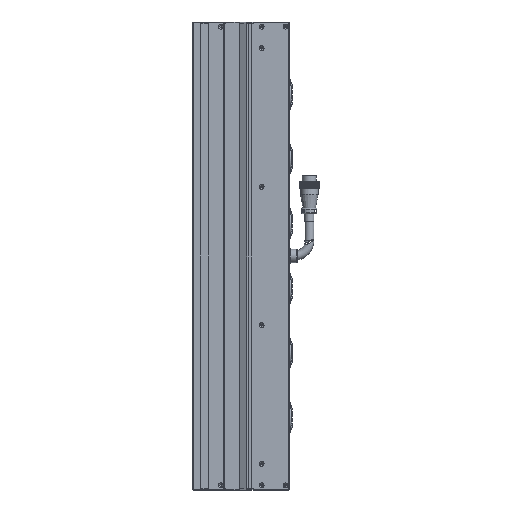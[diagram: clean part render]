
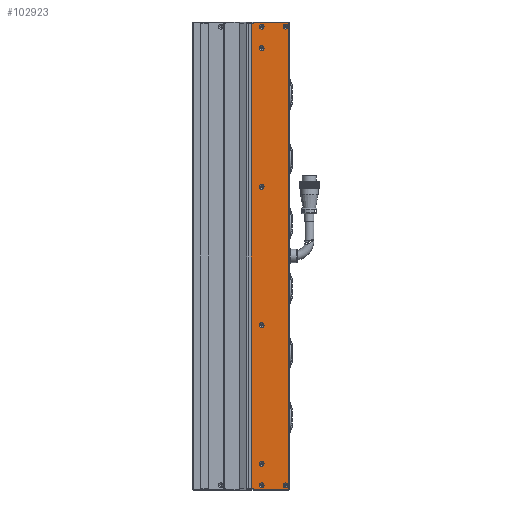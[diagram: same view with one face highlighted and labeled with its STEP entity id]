
A CAD part, left-side view. The second image highlights one B-rep face of the part: STEP entity #102923.
In plain terms, the highlighted planar face has unit normal (-1, 0, 0).
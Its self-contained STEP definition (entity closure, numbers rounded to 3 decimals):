
#40 = CARTESIAN_POINT ( 'NONE',  ( -24.998, -36.5, 270. ) ) ;
#668 = EDGE_CURVE ( 'NONE', #48998, #48998, #37294, .T. ) ;
#1391 = DIRECTION ( 'NONE',  ( -1., 0., 0. ) ) ;
#2941 = CARTESIAN_POINT ( 'NONE',  ( -24.998, -36.5, 298. ) ) ;
#2971 = ORIENTED_EDGE ( 'NONE', *, *, #94007, .T. ) ;
#3266 = CARTESIAN_POINT ( 'NONE',  ( -24.998, -26.5, -302. ) ) ;
#6073 = CARTESIAN_POINT ( 'NONE',  ( -24.998, -36.5, 90. ) ) ;
#6379 = CARTESIAN_POINT ( 'NONE',  ( -24.998, -23.25, 302. ) ) ;
#7041 = EDGE_LOOP ( 'NONE', ( #34612 ) ) ;
#7495 = VECTOR ( 'NONE', #32236, 1000. ) ;
#9126 = VERTEX_POINT ( 'NONE', #111369 ) ;
#9403 = EDGE_CURVE ( 'NONE', #81302, #81302, #109553, .T. ) ;
#10733 = AXIS2_PLACEMENT_3D ( 'NONE', #20543, #12240, #20169 ) ;
#11519 = VERTEX_POINT ( 'NONE', #96459 ) ;
#12240 = DIRECTION ( 'NONE',  ( -1., 0., 0. ) ) ;
#12320 = EDGE_CURVE ( 'NONE', #83082, #65251, #109219, .T. ) ;
#13357 = FACE_BOUND ( 'NONE', #38135, .T. ) ;
#14027 = EDGE_CURVE ( 'NONE', #77014, #77014, #83704, .T. ) ;
#15549 = VERTEX_POINT ( 'NONE', #3266 ) ;
#16297 = CARTESIAN_POINT ( 'NONE',  ( -24.998, -36.5, -86.85 ) ) ;
#17897 = VERTEX_POINT ( 'NONE', #34782 ) ;
#18152 = VECTOR ( 'NONE', #33426, 1000. ) ;
#19984 = ORIENTED_EDGE ( 'NONE', *, *, #48069, .T. ) ;
#20056 = ORIENTED_EDGE ( 'NONE', *, *, #107667, .F. ) ;
#20169 = DIRECTION ( 'NONE',  ( 0., 0., 1. ) ) ;
#20401 = FACE_BOUND ( 'NONE', #51174, .T. ) ;
#20543 = CARTESIAN_POINT ( 'NONE',  ( -24.998, -36.5, -270. ) ) ;
#20667 = AXIS2_PLACEMENT_3D ( 'NONE', #29990, #92960, #48168 ) ;
#20750 = DIRECTION ( 'NONE',  ( 1., 0., 0. ) ) ;
#23178 = FACE_OUTER_BOUND ( 'NONE', #54827, .T. ) ;
#23215 = VERTEX_POINT ( 'NONE', #107895 ) ;
#23602 = CARTESIAN_POINT ( 'NONE',  ( -24.998, -36.5, -294.85 ) ) ;
#23777 = ORIENTED_EDGE ( 'NONE', *, *, #42637, .F. ) ;
#26402 = DIRECTION ( 'NONE',  ( -1., 0., 0. ) ) ;
#27606 = DIRECTION ( 'NONE',  ( -1., 0., 0. ) ) ;
#28725 = EDGE_CURVE ( 'NONE', #88949, #11519, #107090, .T. ) ;
#29351 = DIRECTION ( 'NONE',  ( 0., 1., 0. ) ) ;
#29848 = CIRCLE ( 'NONE', #67530, 3.15 ) ;
#29990 = CARTESIAN_POINT ( 'NONE',  ( -24.998, -67.5, 298. ) ) ;
#32236 = DIRECTION ( 'NONE',  ( 0., 1., 0. ) ) ;
#33211 = DIRECTION ( 'NONE',  ( -1., 0., 0. ) ) ;
#33426 = DIRECTION ( 'NONE',  ( 0., 0., 1. ) ) ;
#33882 = DIRECTION ( 'NONE',  ( 0., 0., 1. ) ) ;
#33890 = DIRECTION ( 'NONE',  ( 0., 0., -1. ) ) ;
#33918 = DIRECTION ( 'NONE',  ( 0., 0., 1. ) ) ;
#34612 = ORIENTED_EDGE ( 'NONE', *, *, #62920, .F. ) ;
#34782 = CARTESIAN_POINT ( 'NONE',  ( -24.998, -72., -303.5 ) ) ;
#35106 = CARTESIAN_POINT ( 'NONE',  ( -24.998, -36.5, 301.15 ) ) ;
#37294 = CIRCLE ( 'NONE', #61682, 3.15 ) ;
#38021 = CIRCLE ( 'NONE', #116586, 3.15 ) ;
#38135 = EDGE_LOOP ( 'NONE', ( #48461 ) ) ;
#38445 = LINE ( 'NONE', #68106, #7495 ) ;
#38819 = PLANE ( 'NONE',  #75484 ) ;
#40114 = EDGE_LOOP ( 'NONE', ( #20056 ) ) ;
#40482 = EDGE_CURVE ( 'NONE', #17897, #74147, #38445, .T. ) ;
#41688 = CARTESIAN_POINT ( 'NONE',  ( -24.998, -72., 303.5 ) ) ;
#42637 = EDGE_CURVE ( 'NONE', #44454, #44454, #77658, .T. ) ;
#43042 = CARTESIAN_POINT ( 'NONE',  ( -24.998, -36.5, 273.15 ) ) ;
#43499 = ORIENTED_EDGE ( 'NONE', *, *, #668, .F. ) ;
#44454 = VERTEX_POINT ( 'NONE', #35106 ) ;
#45033 = DIRECTION ( 'NONE',  ( -1., 0., 0. ) ) ;
#45787 = FACE_BOUND ( 'NONE', #101863, .T. ) ;
#45947 = AXIS2_PLACEMENT_3D ( 'NONE', #74473, #112912, #58668 ) ;
#46831 = EDGE_CURVE ( 'NONE', #97946, #97946, #38021, .T. ) ;
#47184 = FACE_BOUND ( 'NONE', #50738, .T. ) ;
#48069 = EDGE_CURVE ( 'NONE', #17897, #83082, #49214, .T. ) ;
#48168 = DIRECTION ( 'NONE',  ( 0., 0., 1. ) ) ;
#48337 = ORIENTED_EDGE ( 'NONE', *, *, #46831, .F. ) ;
#48461 = ORIENTED_EDGE ( 'NONE', *, *, #14027, .F. ) ;
#48998 = VERTEX_POINT ( 'NONE', #43042 ) ;
#49214 = LINE ( 'NONE', #94161, #116689 ) ;
#50738 = EDGE_LOOP ( 'NONE', ( #66830 ) ) ;
#50869 = DIRECTION ( 'NONE',  ( 0., -1., 0. ) ) ;
#51004 = LINE ( 'NONE', #61088, #94661 ) ;
#51174 = EDGE_LOOP ( 'NONE', ( #23777 ) ) ;
#52548 = DIRECTION ( 'NONE',  ( 0., 0., 1. ) ) ;
#52931 = CARTESIAN_POINT ( 'NONE',  ( -24.998, -36.5, -298. ) ) ;
#54081 = ORIENTED_EDGE ( 'NONE', *, *, #40482, .F. ) ;
#54315 = ORIENTED_EDGE ( 'NONE', *, *, #78806, .F. ) ;
#54827 = EDGE_LOOP ( 'NONE', ( #86609, #54315, #54081, #19984, #80060, #2971, #97197, #106652 ) ) ;
#56164 = CARTESIAN_POINT ( 'NONE',  ( -24.998, -72.5, 302. ) ) ;
#56838 = AXIS2_PLACEMENT_3D ( 'NONE', #2941, #1391, #64414 ) ;
#58668 = DIRECTION ( 'NONE',  ( 0., 0., 1. ) ) ;
#59537 = DIRECTION ( 'NONE',  ( 0., 0., 1. ) ) ;
#61088 = CARTESIAN_POINT ( 'NONE',  ( -24.998, -26.5, 295. ) ) ;
#61682 = AXIS2_PLACEMENT_3D ( 'NONE', #40, #27606, #62664 ) ;
#62664 = DIRECTION ( 'NONE',  ( 0., 0., 1. ) ) ;
#62920 = EDGE_CURVE ( 'NONE', #23215, #23215, #81244, .T. ) ;
#64414 = DIRECTION ( 'NONE',  ( 0., 0., 1. ) ) ;
#65251 = VERTEX_POINT ( 'NONE', #112012 ) ;
#66004 = ORIENTED_EDGE ( 'NONE', *, *, #75630, .F. ) ;
#66048 = LINE ( 'NONE', #113689, #18152 ) ;
#66830 = ORIENTED_EDGE ( 'NONE', *, *, #9403, .F. ) ;
#67530 = AXIS2_PLACEMENT_3D ( 'NONE', #52931, #45033, #52548 ) ;
#68106 = CARTESIAN_POINT ( 'NONE',  ( -24.998, -72.5, -303.5 ) ) ;
#68218 = CARTESIAN_POINT ( 'NONE',  ( -24.998, -26.5, -295. ) ) ;
#69429 = VERTEX_POINT ( 'NONE', #23602 ) ;
#70986 = CARTESIAN_POINT ( 'NONE',  ( -24.998, -67.5, -294.85 ) ) ;
#74147 = VERTEX_POINT ( 'NONE', #94624 ) ;
#74473 = CARTESIAN_POINT ( 'NONE',  ( -24.998, -36.5, -90. ) ) ;
#75436 = FACE_BOUND ( 'NONE', #7041, .T. ) ;
#75484 = AXIS2_PLACEMENT_3D ( 'NONE', #56164, #20750, #82574 ) ;
#75630 = EDGE_CURVE ( 'NONE', #9126, #9126, #103571, .T. ) ;
#76263 = VECTOR ( 'NONE', #77253, 1000. ) ;
#76503 = CARTESIAN_POINT ( 'NONE',  ( -24.998, -72.5, 302. ) ) ;
#77014 = VERTEX_POINT ( 'NONE', #80453 ) ;
#77253 = DIRECTION ( 'NONE',  ( 0., -1., 0. ) ) ;
#77658 = CIRCLE ( 'NONE', #56838, 3.15 ) ;
#77735 = EDGE_LOOP ( 'NONE', ( #48337 ) ) ;
#78058 = CARTESIAN_POINT ( 'NONE',  ( -24.998, -72.5, -302. ) ) ;
#78806 = EDGE_CURVE ( 'NONE', #74147, #15549, #114606, .T. ) ;
#79500 = VECTOR ( 'NONE', #59537, 1000. ) ;
#79721 = VECTOR ( 'NONE', #29351, 1000. ) ;
#80060 = ORIENTED_EDGE ( 'NONE', *, *, #12320, .T. ) ;
#80453 = CARTESIAN_POINT ( 'NONE',  ( -24.998, -67.5, 301.15 ) ) ;
#81244 = CIRCLE ( 'NONE', #10733, 3.15 ) ;
#81302 = VERTEX_POINT ( 'NONE', #16297 ) ;
#82574 = DIRECTION ( 'NONE',  ( 0., 0., -1. ) ) ;
#83082 = VERTEX_POINT ( 'NONE', #41688 ) ;
#83704 = CIRCLE ( 'NONE', #20667, 3.15 ) ;
#86609 = ORIENTED_EDGE ( 'NONE', *, *, #87502, .T. ) ;
#86653 = CARTESIAN_POINT ( 'NONE',  ( -24.998, -23.25, -302. ) ) ;
#87502 = EDGE_CURVE ( 'NONE', #115886, #15549, #101134, .T. ) ;
#87858 = CARTESIAN_POINT ( 'NONE',  ( -24.998, -67.5, -298. ) ) ;
#88949 = VERTEX_POINT ( 'NONE', #6379 ) ;
#92191 = FACE_BOUND ( 'NONE', #95016, .T. ) ;
#92960 = DIRECTION ( 'NONE',  ( -1., 0., 0. ) ) ;
#93966 = VECTOR ( 'NONE', #50869, 1000. ) ;
#94007 = EDGE_CURVE ( 'NONE', #65251, #11519, #51004, .T. ) ;
#94161 = CARTESIAN_POINT ( 'NONE',  ( -24.998, -72., 302. ) ) ;
#94624 = CARTESIAN_POINT ( 'NONE',  ( -24.998, -26.5, -303.5 ) ) ;
#94661 = VECTOR ( 'NONE', #33890, 1000. ) ;
#95016 = EDGE_LOOP ( 'NONE', ( #43499 ) ) ;
#96459 = CARTESIAN_POINT ( 'NONE',  ( -24.998, -26.5, 302. ) ) ;
#97197 = ORIENTED_EDGE ( 'NONE', *, *, #28725, .F. ) ;
#97946 = VERTEX_POINT ( 'NONE', #70986 ) ;
#101027 = CARTESIAN_POINT ( 'NONE',  ( -24.998, -72.5, 303.5 ) ) ;
#101134 = LINE ( 'NONE', #78058, #93966 ) ;
#101863 = EDGE_LOOP ( 'NONE', ( #66004 ) ) ;
#102923 = ADVANCED_FACE ( 'NONE', ( #13357, #20401, #75436, #47184, #45787, #92191, #109099, #114711, #23178 ), #38819, .F. ) ;
#103571 = CIRCLE ( 'NONE', #113003, 3.15 ) ;
#106652 = ORIENTED_EDGE ( 'NONE', *, *, #111805, .F. ) ;
#107090 = LINE ( 'NONE', #76503, #76263 ) ;
#107667 = EDGE_CURVE ( 'NONE', #69429, #69429, #29848, .T. ) ;
#107895 = CARTESIAN_POINT ( 'NONE',  ( -24.998, -36.5, -266.85 ) ) ;
#109099 = FACE_BOUND ( 'NONE', #77735, .T. ) ;
#109219 = LINE ( 'NONE', #101027, #79721 ) ;
#109553 = CIRCLE ( 'NONE', #45947, 3.15 ) ;
#111369 = CARTESIAN_POINT ( 'NONE',  ( -24.998, -36.5, 93.15 ) ) ;
#111805 = EDGE_CURVE ( 'NONE', #115886, #88949, #66048, .T. ) ;
#112012 = CARTESIAN_POINT ( 'NONE',  ( -24.998, -26.5, 303.5 ) ) ;
#112912 = DIRECTION ( 'NONE',  ( -1., 0., 0. ) ) ;
#113003 = AXIS2_PLACEMENT_3D ( 'NONE', #6073, #33211, #115042 ) ;
#113689 = CARTESIAN_POINT ( 'NONE',  ( -24.998, -23.25, -302. ) ) ;
#114606 = LINE ( 'NONE', #68218, #79500 ) ;
#114711 = FACE_BOUND ( 'NONE', #40114, .T. ) ;
#115042 = DIRECTION ( 'NONE',  ( 0., 0., 1. ) ) ;
#115886 = VERTEX_POINT ( 'NONE', #86653 ) ;
#116586 = AXIS2_PLACEMENT_3D ( 'NONE', #87858, #26402, #33882 ) ;
#116689 = VECTOR ( 'NONE', #33918, 1000. ) ;
